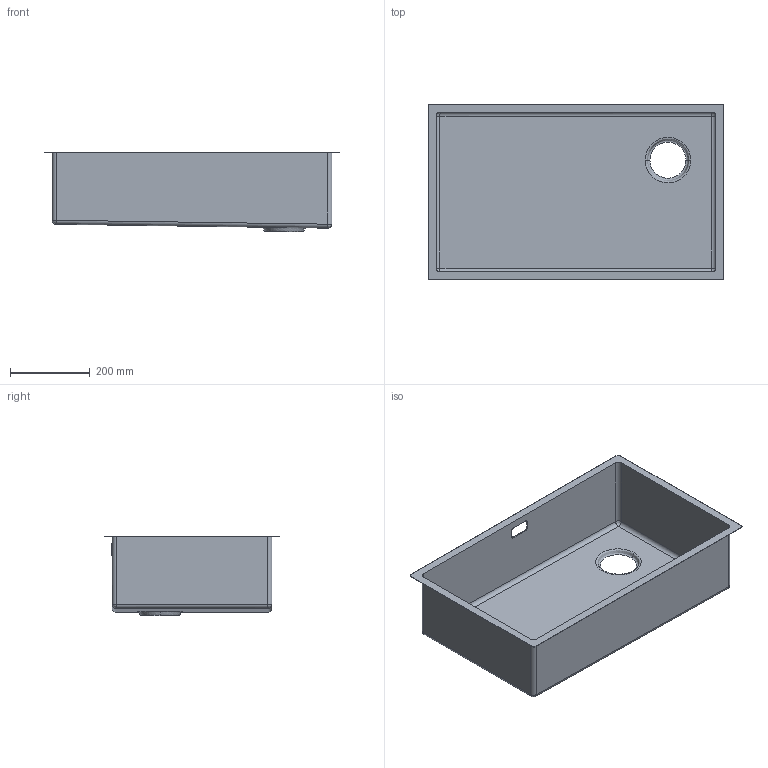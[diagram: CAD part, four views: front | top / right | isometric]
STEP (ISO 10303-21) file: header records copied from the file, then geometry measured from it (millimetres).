
FILE_DESCRIPTION(/* description */ (''),/* implementation_level */ '2;1');
FILE_NAME(/* name */ 'D7444~1',/* time_stamp */ '2023-12-01T08:56:33+08:00',/* author */ (''),/* organization */ (''),/* preprocessor_version */ 'ST-DEVELOPER v16.5',/* originating_system */ '',/* authorisation */ '');
FILE_SCHEMA (('AUTOMOTIVE_DESIGN'));
Length unit declared in the file: millimetre
Products named in the file (1): Document
Bounding box: 740 x 440 x 198.93 mm (x, y, z)
Surface area: 716474.6 mm2 (no closed solid volume)
Topology: 0 solids, 1 shells, 30 faces, 72 edges, 44 vertices
Faces by surface type: bspline 22, plane 8
Entity records: 1533 total; most frequent: CARTESIAN_POINT 1096, ORIENTED_EDGE 132, EDGE_CURVE 72, VERTEX_POINT 44, B_SPLINE_CURVE_WITH_KNOTS 40, EDGE_LOOP 33, ADVANCED_FACE 30, FACE_OUTER_BOUND 30
